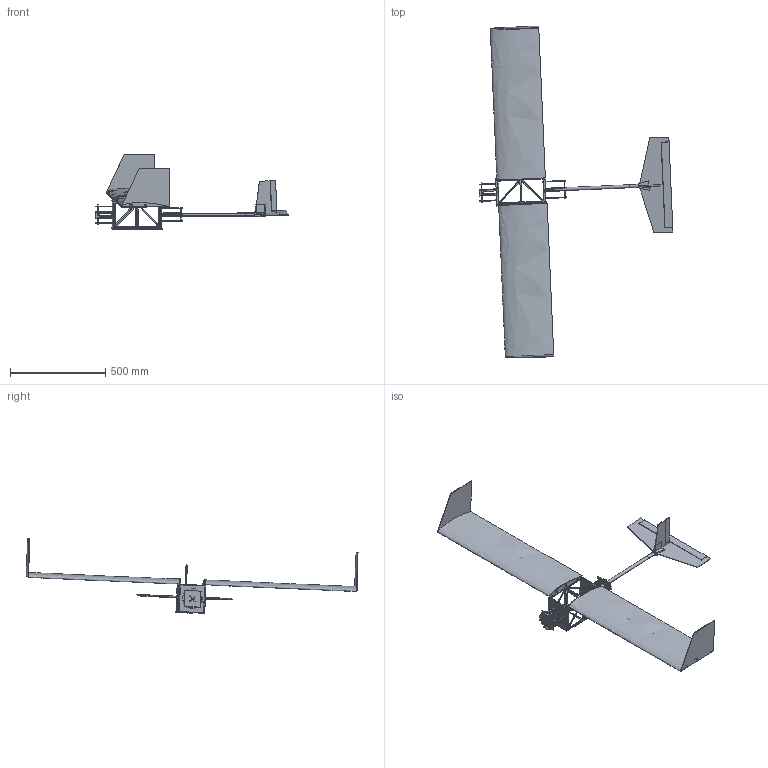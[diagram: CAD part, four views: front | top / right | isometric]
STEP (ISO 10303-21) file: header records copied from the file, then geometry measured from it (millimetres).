
FILE_DESCRIPTION(/* description */ (''),/* implementation_level */ '2;1');
FILE_NAME(/* name */ 'Assembly.step',/* time_stamp */ '2023-08-12T23:50:06+03:00',/* author */ (''),/* organization */ (''),/* preprocessor_version */ 'ST-DEVELOPER v20',/* originating_system */ 'Autodesk Translation Framework v12.9.0.99',/* authorisation */ '');
FILE_SCHEMA (('AUTOMOTIVE_DESIGN { 1 0 10303 214 3 1 1 }'));
Length unit declared in the file: millimetre
Products named in the file (23): assembey; Side Mid; Front Mid; Side Mid v11(Mirror); Top Mid; Top Mid v20(Mirror); Rear Mid; lock v1(Mirror); lock rear; lock v1(Mirror) (1); Rear Mid 2; lock front; lock front v2(Mirror); lock front v2(Mirror) (1); Motor Mount; Boom; wing_cap; Tail (3); Vertical Stabilizer (2); Horizontal Stabilizer (2); tail connector (2); 2.3-Right Wing; 2.3-Winglet
Assembly tree (27 placements, depth 3):
  assembey
    Side Mid
    Front Mid
    Side Mid v11(Mirror)
    Top Mid
    Top Mid v20(Mirror)
    Rear Mid
    lock rear  x2
    lock v1(Mirror)
    lock v1(Mirror) (1)
    Rear Mid 2
    lock front  x2
    lock front v2(Mirror)
    lock front v2(Mirror) (1)
    Motor Mount
    Boom
    wing_cap  x2
    Tail (3)
      Vertical Stabilizer (2)
      Horizontal Stabilizer (2)
      tail connector (2)
    2.3-Right Wing  x2
    2.3-Winglet  x2
Bounding box: 1015.85 x 1738.51 x 396 mm (x, y, z)
Volume: 7003837.5 mm3; surface area: 1639608.1 mm2
Topology: 28 solids, 28 shells, 752 faces, 2084 edges, 1390 vertices
Faces by surface type: plane 724, cylinder 24, bspline 4
Full cylindrical faces by diameter (mm): 8 x1, 10 x4, 12 x4, 14 x2, 16 x4, 20 x1
Entity records: 24863 total; most frequent: CARTESIAN_POINT 6628, ORIENTED_EDGE 3714, DIRECTION 3321, EDGE_CURVE 1857, LINE 1811, VECTOR 1811, VERTEX_POINT 1238, EDGE_LOOP 843
